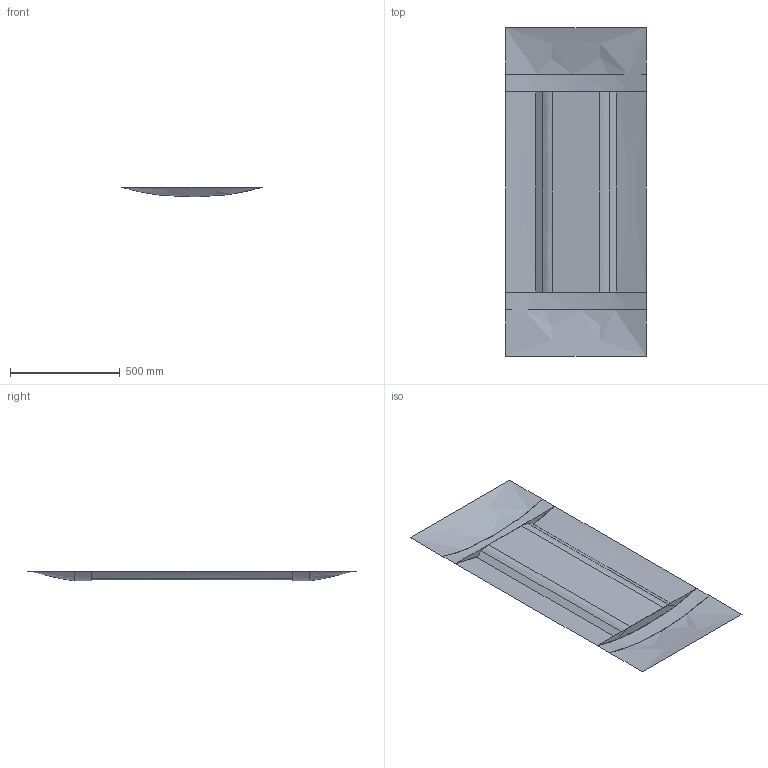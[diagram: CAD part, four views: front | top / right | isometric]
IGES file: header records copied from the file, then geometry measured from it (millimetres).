
Start section:  Autodesk
Global section: file name: D:\_jobdisk\_siemens_railjet\_data_OUT\_export\IGES\decke v1.iges; native system: Autodesk                             ; preprocessor: 13.5; author: Administrator; organization: Unknown; date: 20070321.103325; units: millimetre
Bounding box: 642 x 1500 x 44.59 mm (x, y, z)
Surface area: 1265337.9 mm2 (no closed solid volume)
Topology: 0 solids, 0 shells, 16 faces, 64 edges, 64 vertices
Faces by surface type: bspline 16
